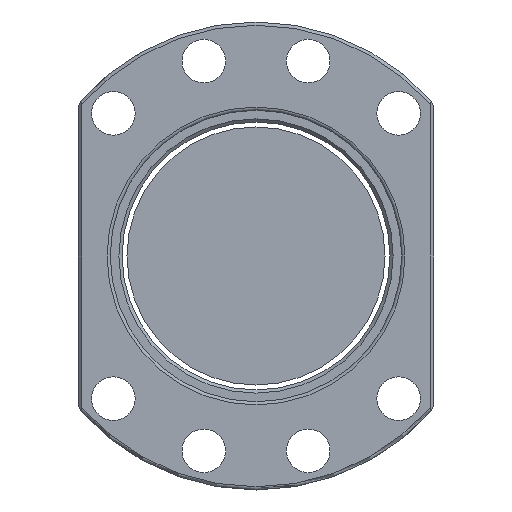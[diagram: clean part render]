
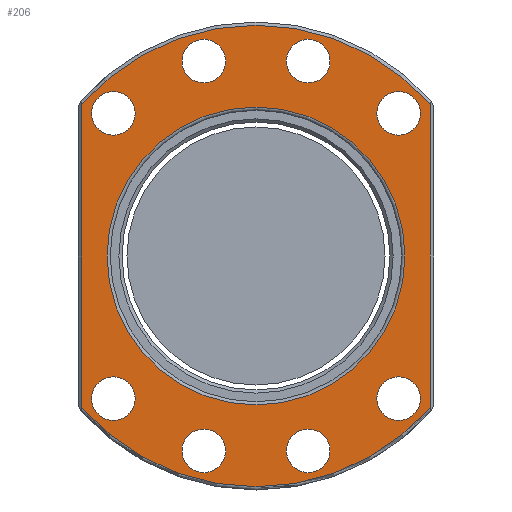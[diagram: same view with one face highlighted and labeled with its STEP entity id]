
A CAD part, front view. The second image highlights one B-rep face of the part: STEP entity #206.
In plain terms, the highlighted planar face has unit normal (0, -1, 0).
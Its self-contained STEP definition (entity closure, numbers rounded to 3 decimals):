
#39=LINE('',#1358,#63);
#40=LINE('',#1362,#64);
#63=VECTOR('',#1123,1.);
#64=VECTOR('',#1126,1.);
#151=PLANE('',#965);
#206=ADVANCED_FACE('',(#305,#306,#307,#308,#309,#310,#311,#312,#313,#314),
#151,.F.);
#305=FACE_BOUND('',#405,.T.);
#306=FACE_BOUND('',#406,.T.);
#307=FACE_BOUND('',#407,.T.);
#308=FACE_BOUND('',#408,.T.);
#309=FACE_BOUND('',#409,.T.);
#310=FACE_BOUND('',#410,.T.);
#311=FACE_BOUND('',#411,.T.);
#312=FACE_BOUND('',#412,.T.);
#313=FACE_BOUND('',#413,.T.);
#314=FACE_BOUND('',#414,.T.);
#405=EDGE_LOOP('',(#521));
#406=EDGE_LOOP('',(#522,#523,#524,#525));
#407=EDGE_LOOP('',(#526));
#408=EDGE_LOOP('',(#527));
#409=EDGE_LOOP('',(#528));
#410=EDGE_LOOP('',(#529));
#411=EDGE_LOOP('',(#530));
#412=EDGE_LOOP('',(#531));
#413=EDGE_LOOP('',(#532));
#414=EDGE_LOOP('',(#533));
#521=ORIENTED_EDGE('',*,*,#776,.T.);
#522=ORIENTED_EDGE('',*,*,#777,.T.);
#523=ORIENTED_EDGE('',*,*,#778,.T.);
#524=ORIENTED_EDGE('',*,*,#779,.T.);
#525=ORIENTED_EDGE('',*,*,#780,.T.);
#526=ORIENTED_EDGE('',*,*,#781,.F.);
#527=ORIENTED_EDGE('',*,*,#782,.F.);
#528=ORIENTED_EDGE('',*,*,#783,.T.);
#529=ORIENTED_EDGE('',*,*,#784,.F.);
#530=ORIENTED_EDGE('',*,*,#785,.F.);
#531=ORIENTED_EDGE('',*,*,#786,.T.);
#532=ORIENTED_EDGE('',*,*,#787,.T.);
#533=ORIENTED_EDGE('',*,*,#788,.T.);
#695=VERTEX_POINT('',#1354);
#696=VERTEX_POINT('',#1356);
#697=VERTEX_POINT('',#1357);
#698=VERTEX_POINT('',#1359);
#699=VERTEX_POINT('',#1361);
#700=VERTEX_POINT('',#1364);
#701=VERTEX_POINT('',#1366);
#702=VERTEX_POINT('',#1368);
#703=VERTEX_POINT('',#1370);
#704=VERTEX_POINT('',#1372);
#705=VERTEX_POINT('',#1374);
#706=VERTEX_POINT('',#1376);
#707=VERTEX_POINT('',#1378);
#776=EDGE_CURVE('',#695,#695,#873,.T.);
#777=EDGE_CURVE('',#696,#697,#874,.T.);
#778=EDGE_CURVE('',#697,#698,#39,.T.);
#779=EDGE_CURVE('',#698,#699,#875,.T.);
#780=EDGE_CURVE('',#699,#696,#40,.T.);
#781=EDGE_CURVE('',#700,#700,#876,.T.);
#782=EDGE_CURVE('',#701,#701,#877,.T.);
#783=EDGE_CURVE('',#702,#702,#878,.T.);
#784=EDGE_CURVE('',#703,#703,#879,.T.);
#785=EDGE_CURVE('',#704,#704,#880,.T.);
#786=EDGE_CURVE('',#705,#705,#881,.T.);
#787=EDGE_CURVE('',#706,#706,#882,.T.);
#788=EDGE_CURVE('',#707,#707,#883,.T.);
#873=CIRCLE('',#954,46.15);
#874=CIRCLE('',#955,71.5);
#875=CIRCLE('',#956,71.5);
#876=CIRCLE('',#957,6.75);
#877=CIRCLE('',#958,6.75);
#878=CIRCLE('',#959,6.75);
#879=CIRCLE('',#960,6.75);
#880=CIRCLE('',#961,6.75);
#881=CIRCLE('',#962,6.75);
#882=CIRCLE('',#963,6.75);
#883=CIRCLE('',#964,6.75);
#954=AXIS2_PLACEMENT_3D('',#1353,#1119,#1120);
#955=AXIS2_PLACEMENT_3D('',#1355,#1121,#1122);
#956=AXIS2_PLACEMENT_3D('',#1360,#1124,#1125);
#957=AXIS2_PLACEMENT_3D('',#1363,#1127,#1128);
#958=AXIS2_PLACEMENT_3D('',#1365,#1129,#1130);
#959=AXIS2_PLACEMENT_3D('',#1367,#1131,#1132);
#960=AXIS2_PLACEMENT_3D('',#1369,#1133,#1134);
#961=AXIS2_PLACEMENT_3D('',#1371,#1135,#1136);
#962=AXIS2_PLACEMENT_3D('',#1373,#1137,#1138);
#963=AXIS2_PLACEMENT_3D('',#1375,#1139,#1140);
#964=AXIS2_PLACEMENT_3D('',#1377,#1141,#1142);
#965=AXIS2_PLACEMENT_3D('',#1379,#1143,#1144);
#1119=DIRECTION('',(0.,1.,0.));
#1120=DIRECTION('',(0.,0.,1.));
#1121=DIRECTION('',(0.,-1.,0.));
#1122=DIRECTION('',(0.,0.,1.));
#1123=DIRECTION('',(0.,0.,1.));
#1124=DIRECTION('',(0.,-1.,0.));
#1125=DIRECTION('',(0.,0.,1.));
#1126=DIRECTION('',(0.,0.,-1.));
#1127=DIRECTION('',(0.,-1.,0.));
#1128=DIRECTION('',(-1.,0.,0.));
#1129=DIRECTION('',(0.,-1.,0.));
#1130=DIRECTION('',(1.,0.,0.));
#1131=DIRECTION('',(0.,1.,0.));
#1132=DIRECTION('',(-1.,0.,0.));
#1133=DIRECTION('',(0.,-1.,0.));
#1134=DIRECTION('',(1.,0.,0.));
#1135=DIRECTION('',(0.,-1.,0.));
#1136=DIRECTION('',(-1.,0.,0.));
#1137=DIRECTION('',(0.,1.,0.));
#1138=DIRECTION('',(1.,0.,0.));
#1139=DIRECTION('',(0.,1.,0.));
#1140=DIRECTION('',(1.,0.,0.));
#1141=DIRECTION('',(0.,1.,0.));
#1142=DIRECTION('',(-1.,0.,0.));
#1143=DIRECTION('',(0.,1.,0.));
#1144=DIRECTION('',(0.,0.,1.));
#1353=CARTESIAN_POINT('',(0.,0.,0.));
#1354=CARTESIAN_POINT('',(0.,0.,46.15));
#1355=CARTESIAN_POINT('',(0.,0.,0.));
#1356=CARTESIAN_POINT('',(-54.,0.,-46.864));
#1357=CARTESIAN_POINT('',(54.,0.,-46.864));
#1358=CARTESIAN_POINT('',(54.,0.,45.686));
#1359=CARTESIAN_POINT('',(54.,0.,46.864));
#1360=CARTESIAN_POINT('',(0.,0.,0.));
#1361=CARTESIAN_POINT('',(-54.,0.,46.864));
#1362=CARTESIAN_POINT('',(-54.,0.,-45.686));
#1363=CARTESIAN_POINT('',(-16.176,0.,-60.37));
#1364=CARTESIAN_POINT('',(-22.926,0.,-60.37));
#1365=CARTESIAN_POINT('',(44.194,0.,44.194));
#1366=CARTESIAN_POINT('',(50.944,0.,44.194));
#1367=CARTESIAN_POINT('',(-16.176,0.,60.37));
#1368=CARTESIAN_POINT('',(-22.926,0.,60.37));
#1369=CARTESIAN_POINT('',(16.176,0.,60.37));
#1370=CARTESIAN_POINT('',(22.926,0.,60.37));
#1371=CARTESIAN_POINT('',(-44.194,0.,-44.194));
#1372=CARTESIAN_POINT('',(-50.944,0.,-44.194));
#1373=CARTESIAN_POINT('',(44.194,0.,-44.194));
#1374=CARTESIAN_POINT('',(50.944,0.,-44.194));
#1375=CARTESIAN_POINT('',(16.176,0.,-60.37));
#1376=CARTESIAN_POINT('',(22.926,0.,-60.37));
#1377=CARTESIAN_POINT('',(-44.194,0.,44.194));
#1378=CARTESIAN_POINT('',(-50.944,0.,44.194));
#1379=CARTESIAN_POINT('',(0.,0.,0.));
